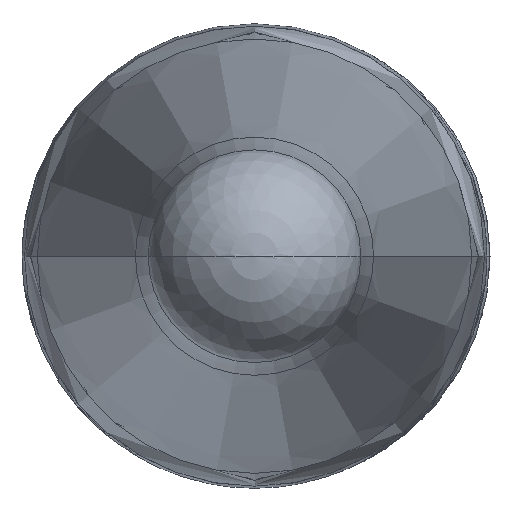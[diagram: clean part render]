
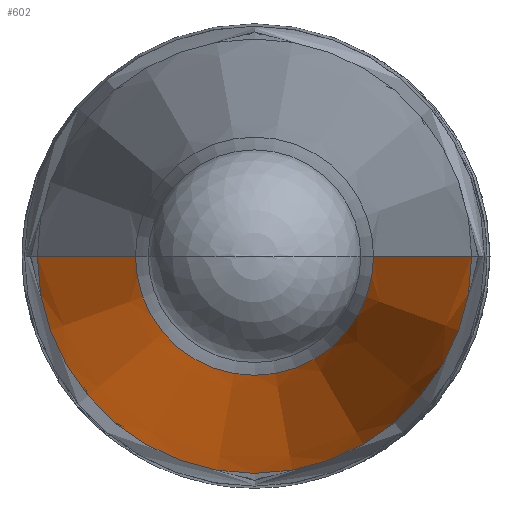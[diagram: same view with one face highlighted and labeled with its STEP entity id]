
A CAD part, left-side view. The second image highlights one B-rep face of the part: STEP entity #602.
In plain terms, the highlighted conical face has half-angle 4.854 degrees and reference radius 4.743 mm.
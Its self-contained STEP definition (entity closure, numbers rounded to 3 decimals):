
#62=CARTESIAN_POINT('',(-122.186,0.,0.));
#63=DIRECTION('',(-1.,0.,0.));
#64=DIRECTION('',(0.,1.,0.));
#65=AXIS2_PLACEMENT_3D('',#62,#63,#64);
#67=DIRECTION('',(-0.996,-0.085,0.));
#68=VECTOR('',#67,32.71);
#69=CARTESIAN_POINT('',(-122.186,6.127,0.));
#70=LINE('',#69,#68);
#71=CARTESIAN_POINT('',(-154.779,0.,0.));
#72=DIRECTION('',(1.,0.,0.));
#73=DIRECTION('',(0.,-1.,0.));
#74=AXIS2_PLACEMENT_3D('',#71,#72,#73);
#76=DIRECTION('',(-0.996,0.085,0.));
#77=VECTOR('',#76,32.71);
#78=CARTESIAN_POINT('',(-122.186,-6.127,
0.));
#79=LINE('',#78,#77);
#495=CARTESIAN_POINT('',(-154.779,-3.359,0.));
#496=CARTESIAN_POINT('',(-154.779,3.359,0.));
#497=VERTEX_POINT('',#495);
#498=VERTEX_POINT('',#496);
#499=CARTESIAN_POINT('',(-122.186,6.127,0.));
#500=CARTESIAN_POINT('',(-122.186,-6.127,0.));
#501=VERTEX_POINT('',#499);
#502=VERTEX_POINT('',#500);
#589=CARTESIAN_POINT('',(-138.482,0.,0.));
#590=DIRECTION('',(1.,0.,0.));
#591=DIRECTION('',(0.,-1.,0.));
#592=AXIS2_PLACEMENT_3D('',#589,#590,#591);
#593=CONICAL_SURFACE('',#592,4.743,4.854);
#595=ORIENTED_EDGE('',*,*,#594,.F.);
#596=ORIENTED_EDGE('',*,*,#584,.T.);
#598=ORIENTED_EDGE('',*,*,#597,.F.);
#599=ORIENTED_EDGE('',*,*,#580,.F.);
#600=EDGE_LOOP('',(#595,#596,#598,#599));
#601=FACE_OUTER_BOUND('',#600,.F.);
#602=ADVANCED_FACE('',(#601),#593,.T.);
#66=CIRCLE('',#65,6.127);
#75=CIRCLE('',#74,3.359);
#580=EDGE_CURVE('',#502,#497,#79,.T.);
#584=EDGE_CURVE('',#501,#498,#70,.T.);
#594=EDGE_CURVE('',#501,#502,#66,.T.);
#597=EDGE_CURVE('',#497,#498,#75,.T.);
